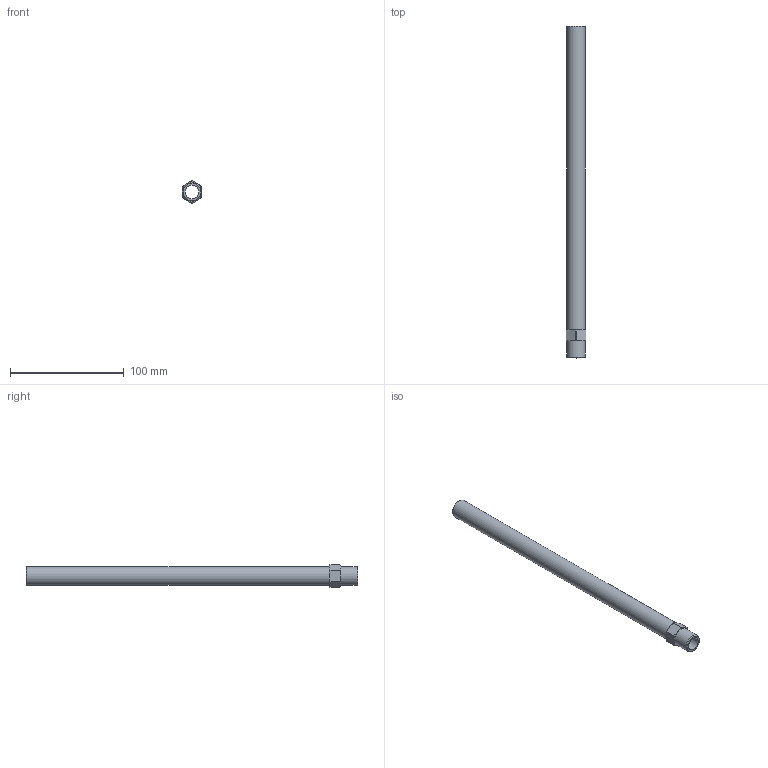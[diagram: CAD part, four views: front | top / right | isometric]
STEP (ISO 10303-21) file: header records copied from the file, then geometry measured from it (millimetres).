
FILE_DESCRIPTION(/* description */ (''),/* implementation_level */ '2;1');
FILE_NAME(/* name */ 'C:/Users/drich/Desktop/APN38-11-1_2 v1.step',/* time_stamp */ '2019-12-27T17:55:08-06:00',/* author */ (''),/* organization */ (''),/* preprocessor_version */ 'ST-DEVELOPER v18',/* originating_system */ 'Autodesk Translation Framework v8.12.0.6',/* authorisation */ '');
FILE_SCHEMA (('AUTOMOTIVE_DESIGN { 1 0 10303 214 3 1 1 }'));
Length unit declared in the file: inch
Products named in the file (1): APN38-11-1_2
Bounding box: 17.45 x 292.1 x 20.12 mm (x, y, z)
Volume: 30778.6 mm3; surface area: 26405.7 mm2
Topology: 1 solids, 1 shells, 33 faces, 89 edges, 60 vertices
Faces by surface type: cone 14, plane 10, cylinder 9
Full cylindrical faces by diameter (mm): 11.887 x1, 16.537 x2
Entity records: 1077 total; most frequent: CARTESIAN_POINT 231, ORIENTED_EDGE 178, DIRECTION 169, EDGE_CURVE 89, AXIS2_PLACEMENT_3D 70, VERTEX_POINT 60, EDGE_LOOP 37, CIRCLE 36
